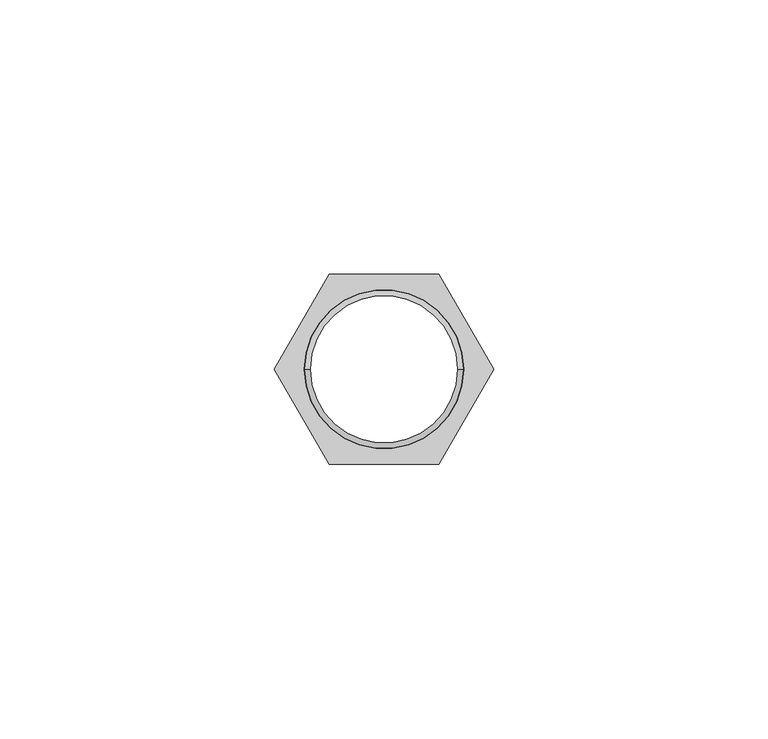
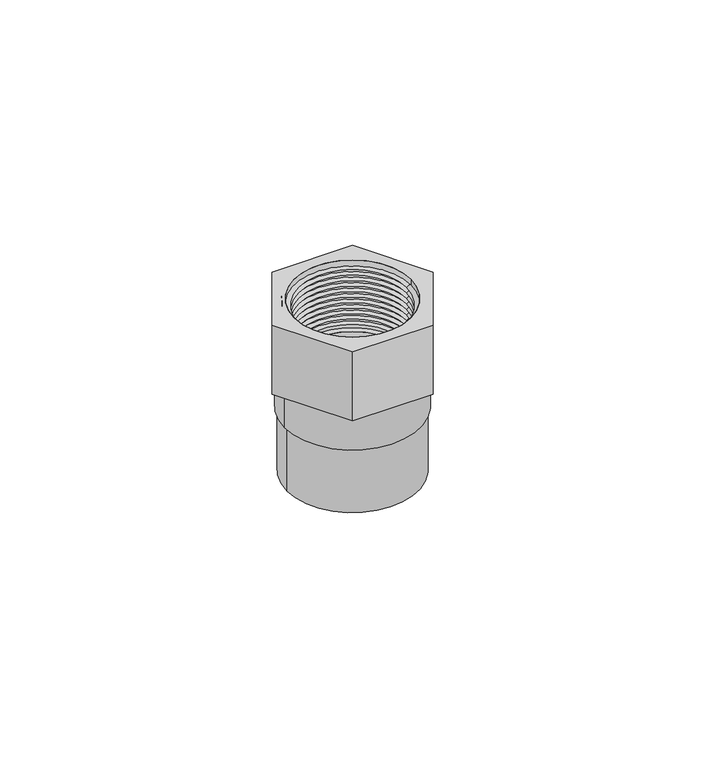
"""IFC4 building model written with IfcOpenShell, lengths in millimetres: valve geometry, Adaptador Hembra_Lubrizol_CPVC_FlowGuard_MX 25mm : Adaptador Hembra_Lubrizol_CPVC_FlowGuard_MX 25mm."""

from ifc_helpers import new_model, si_unit, point, frame, origin, origin_with_axes, origin_2d, place, context, project, spatial, polyline, circle_curve, trimmed, segment, composite_curve, outline, extrude, source, transform, mapped, element, save
from ifc_brep_helpers import plane_surface, cylinder_surface, revolved_surface, advanced_brep


def valve_bd7e4427(model_context):
    return source(origin(), model_context, "Body", "SolidModel", [
        extrude(outline(composite_curve([segment(trimmed(circle_curve(origin_2d(), 16.8646028), [point((-16.8646028, 0.0))], [point((16.8646028, 0.0))], False, "CARTESIAN"), True, "CONTINUOUS"), segment(trimmed(circle_curve(origin_2d(), 16.8646028), [point((16.8646028, 0.0))], [point((-16.8646028, 0.0))], False, "CARTESIAN"), True, "CONTINUOUS")], self_intersect=False), holes=[composite_curve([segment(trimmed(circle_curve(origin_2d(), 13.4417103), [point((-13.4417103, 0.0))], [point((13.4417103, 0.0))], True, "CARTESIAN"), True, "CONTINUOUS"), segment(trimmed(circle_curve(origin_2d(), 13.4417103), [point((13.4417103, 0.0))], [point((-13.4417103, 0.0))], True, "CARTESIAN"), True, "CONTINUOUS")], self_intersect=False)]), frame((0.0, 0.0, 16.8611414), z_axis=(0.0, 0.0, 1.0), x_axis=(1.0, 0.0, 0.0)), (0.0, 0.0, 1.0), 9.9412491),
        extrude(outline(polyline([(-10.0, -17.3205081), (-20.0, 0.0), (-10.0, 17.3205081), (10.0, 17.3205081), (20.0, 0.0), (10.0, -17.3205081), (-10.0, -17.3205081)]), holes=[composite_curve([segment(trimmed(circle_curve(origin_2d(), 14.5054229), [point((-14.5054229, 0.0))], [point((14.5054229, 0.0))], True, "CARTESIAN"), True, "CONTINUOUS"), segment(trimmed(circle_curve(origin_2d(), 14.5054229), [point((14.5054229, 0.0))], [point((-14.5054229, 0.0))], True, "CARTESIAN"), True, "CONTINUOUS")], self_intersect=False)]), frame((0.0, 0.0, 26.8023905), z_axis=(0.0, 0.0, 1.0), x_axis=(1.0, 0.0, 0.0)), (0.0, 0.0, 1.0), 18.0726095),
        advanced_brep(
        [(15.3562272, 0.0, 44.875), (-15.3562272, 0.0, 44.875), (-14.5054229, 0.0, 44.875), (14.5054229, 0.0, 44.875), (15.3562272, 0.0, 28.0251223), (-15.3562272, 0.0, 28.0251223), (14.4090846, 0.0, 28.0251223), (-14.4090846, 0.0, 28.0251223), (13.4417103, 0.0, 28.7024851), (-13.4417103, 0.0, 28.7024851), (14.4759345, 0.0, 29.4266568), (-14.4759345, 0.0, 29.4266568), (13.4417103, 0.0, 30.1508284), (-13.4417103, 0.0, 30.1508284), (14.4425096, 0.0, 30.8515956), (-14.4425096, 0.0, 30.8515956), (13.4417103, 0.0, 31.5523628), (-13.4417103, 0.0, 31.5523628), (14.4759345, 0.0, 32.2765344), (-14.4759345, 0.0, 32.2765344), (13.4417103, 0.0, 33.000706), (-13.4417103, 0.0, 33.000706), (14.4759345, 0.0, 33.7248777), (-14.4759345, 0.0, 33.7248777), (13.4417103, 0.0, 34.4490493), (-13.4417103, 0.0, 34.4490493), (14.4759345, 0.0, 35.1732209), (-14.4759345, 0.0, 35.1732209), (13.4417103, 0.0, 35.8973925), (-13.4417103, 0.0, 35.8973925), (14.4759345, 0.0, 36.6215641), (-14.4759345, 0.0, 36.6215641), (13.4417103, 0.0, 37.3457358), (-13.4417103, 0.0, 37.3457358), (14.4759345, 0.0, 38.0699074), (-14.4759345, 0.0, 38.0699074), (13.4417103, 0.0, 38.794079), (-13.4417103, 0.0, 38.794079), (14.4759345, 0.0, 39.5182506), (-14.4759345, 0.0, 39.5182506), (13.4417103, 0.0, 40.2424223), (-13.4417103, 0.0, 40.2424223), (14.4759345, 0.0, 40.9665939), (-14.4759345, 0.0, 40.9665939), (13.4417103, 0.0, 41.6907655), (-13.4417103, 0.0, 41.6907655), (14.4759345, 0.0, 42.4149371), (-14.4759345, 0.0, 42.4149371), (13.4417103, 0.0, 43.1391088), (-13.4417103, 0.0, 43.1391088), (14.5054229, 0.0, 43.8839284), (-14.5054229, 0.0, 43.8839284)],
        [
            (0, 1, circle_curve(frame((0.0, 0.0, 44.875), z_axis=(0.0, 0.0, 1.0), x_axis=(-1.0, 0.0, 0.0)), 15.3562272)),
            (1, 2),
            (2, 3, circle_curve(frame((0.0, 0.0, 44.875), z_axis=(0.0, 0.0, -1.0), x_axis=(-1.0, 0.0, 0.0)), 14.5054229)),
            (3, 0),
            (1, 0, circle_curve(frame((0.0, 0.0, 44.875), z_axis=(0.0, 0.0, 1.0), x_axis=(-1.0, 0.0, 0.0)), 15.3562272)),
            (3, 2, circle_curve(frame((0.0, 0.0, 44.875), z_axis=(0.0, 0.0, -1.0), x_axis=(-1.0, 0.0, 0.0)), 14.5054229)),
            (4, 5, circle_curve(frame((0.0, 0.0, 28.0251223), z_axis=(0.0, 0.0, 1.0), x_axis=(-1.0, 0.0, 0.0)), 15.3562272)),
            (5, 1),
            (0, 4),
            (5, 4, circle_curve(frame((0.0, 0.0, 28.0251223), z_axis=(0.0, 0.0, 1.0), x_axis=(-1.0, 0.0, 0.0)), 15.3562272)),
            (6, 7, circle_curve(frame((0.0, 0.0, 28.0251223), z_axis=(0.0, 0.0, 1.0), x_axis=(-1.0, 0.0, 0.0)), 14.4090846)),
            (7, 5),
            (4, 6),
            (7, 6, circle_curve(frame((0.0, 0.0, 28.0251223), z_axis=(0.0, 0.0, 1.0), x_axis=(-1.0, 0.0, 0.0)), 14.4090846)),
            (8, 9, circle_curve(frame((0.0, 0.0, 28.7024851), z_axis=(0.0, 0.0, 1.0), x_axis=(-1.0, 0.0, 0.0)), 13.4417103)),
            (9, 7),
            (6, 8),
            (9, 8, circle_curve(frame((0.0, 0.0, 28.7024851), z_axis=(0.0, 0.0, 1.0), x_axis=(-1.0, 0.0, 0.0)), 13.4417103)),
            (10, 11, circle_curve(frame((0.0, 0.0, 29.4266568), z_axis=(0.0, 0.0, 1.0), x_axis=(-1.0, 0.0, 0.0)), 14.4759345)),
            (11, 9),
            (8, 10),
            (11, 10, circle_curve(frame((0.0, 0.0, 29.4266568), z_axis=(0.0, 0.0, 1.0), x_axis=(-1.0, 0.0, 0.0)), 14.4759345)),
            (12, 13, circle_curve(frame((0.0, 0.0, 30.1508284), z_axis=(0.0, 0.0, 1.0), x_axis=(-1.0, 0.0, 0.0)), 13.4417103)),
            (13, 11),
            (10, 12),
            (13, 12, circle_curve(frame((0.0, 0.0, 30.1508284), z_axis=(0.0, 0.0, 1.0), x_axis=(-1.0, 0.0, 0.0)), 13.4417103)),
            (14, 15, circle_curve(frame((0.0, 0.0, 30.8515956), z_axis=(0.0, 0.0, 1.0), x_axis=(-1.0, 0.0, 0.0)), 14.4425096)),
            (15, 13),
            (12, 14),
            (15, 14, circle_curve(frame((0.0, 0.0, 30.8515956), z_axis=(0.0, 0.0, 1.0), x_axis=(-1.0, 0.0, 0.0)), 14.4425096)),
            (16, 17, circle_curve(frame((0.0, 0.0, 31.5523628), z_axis=(0.0, 0.0, 1.0), x_axis=(-1.0, 0.0, 0.0)), 13.4417103)),
            (17, 15),
            (14, 16),
            (17, 16, circle_curve(frame((0.0, 0.0, 31.5523628), z_axis=(0.0, 0.0, 1.0), x_axis=(-1.0, 0.0, 0.0)), 13.4417103)),
            (18, 19, circle_curve(frame((0.0, 0.0, 32.2765344), z_axis=(0.0, 0.0, 1.0), x_axis=(-1.0, 0.0, 0.0)), 14.4759345)),
            (19, 17),
            (16, 18),
            (19, 18, circle_curve(frame((0.0, 0.0, 32.2765344), z_axis=(0.0, 0.0, 1.0), x_axis=(-1.0, 0.0, 0.0)), 14.4759345)),
            (20, 21, circle_curve(frame((0.0, 0.0, 33.000706), z_axis=(0.0, 0.0, 1.0), x_axis=(-1.0, 0.0, 0.0)), 13.4417103)),
            (21, 19),
            (18, 20),
            (21, 20, circle_curve(frame((0.0, 0.0, 33.000706), z_axis=(0.0, 0.0, 1.0), x_axis=(-1.0, 0.0, 0.0)), 13.4417103)),
            (22, 23, circle_curve(frame((0.0, 0.0, 33.7248777), z_axis=(0.0, 0.0, 1.0), x_axis=(-1.0, 0.0, 0.0)), 14.4759345)),
            (23, 21),
            (20, 22),
            (23, 22, circle_curve(frame((0.0, 0.0, 33.7248777), z_axis=(0.0, 0.0, 1.0), x_axis=(-1.0, 0.0, 0.0)), 14.4759345)),
            (24, 25, circle_curve(frame((0.0, 0.0, 34.4490493), z_axis=(0.0, 0.0, 1.0), x_axis=(-1.0, 0.0, 0.0)), 13.4417103)),
            (25, 23),
            (22, 24),
            (25, 24, circle_curve(frame((0.0, 0.0, 34.4490493), z_axis=(0.0, 0.0, 1.0), x_axis=(-1.0, 0.0, 0.0)), 13.4417103)),
            (26, 27, circle_curve(frame((0.0, 0.0, 35.1732209), z_axis=(0.0, 0.0, 1.0), x_axis=(-1.0, 0.0, 0.0)), 14.4759345)),
            (27, 25),
            (24, 26),
            (27, 26, circle_curve(frame((0.0, 0.0, 35.1732209), z_axis=(0.0, 0.0, 1.0), x_axis=(-1.0, 0.0, 0.0)), 14.4759345)),
            (28, 29, circle_curve(frame((0.0, 0.0, 35.8973925), z_axis=(0.0, 0.0, 1.0), x_axis=(-1.0, 0.0, 0.0)), 13.4417103)),
            (29, 27),
            (26, 28),
            (29, 28, circle_curve(frame((0.0, 0.0, 35.8973925), z_axis=(0.0, 0.0, 1.0), x_axis=(-1.0, 0.0, 0.0)), 13.4417103)),
            (30, 31, circle_curve(frame((0.0, 0.0, 36.6215641), z_axis=(0.0, 0.0, 1.0), x_axis=(-1.0, 0.0, 0.0)), 14.4759345)),
            (31, 29),
            (28, 30),
            (31, 30, circle_curve(frame((0.0, 0.0, 36.6215641), z_axis=(0.0, 0.0, 1.0), x_axis=(-1.0, 0.0, 0.0)), 14.4759345)),
            (32, 33, circle_curve(frame((0.0, 0.0, 37.3457358), z_axis=(0.0, 0.0, 1.0), x_axis=(-1.0, 0.0, 0.0)), 13.4417103)),
            (33, 31),
            (30, 32),
            (33, 32, circle_curve(frame((0.0, 0.0, 37.3457358), z_axis=(0.0, 0.0, 1.0), x_axis=(-1.0, 0.0, 0.0)), 13.4417103)),
            (34, 35, circle_curve(frame((0.0, 0.0, 38.0699074), z_axis=(0.0, 0.0, 1.0), x_axis=(-1.0, 0.0, 0.0)), 14.4759345)),
            (35, 33),
            (32, 34),
            (35, 34, circle_curve(frame((0.0, 0.0, 38.0699074), z_axis=(0.0, 0.0, 1.0), x_axis=(-1.0, 0.0, 0.0)), 14.4759345)),
            (36, 37, circle_curve(frame((0.0, 0.0, 38.794079), z_axis=(0.0, 0.0, 1.0), x_axis=(-1.0, 0.0, 0.0)), 13.4417103)),
            (37, 35),
            (34, 36),
            (37, 36, circle_curve(frame((0.0, 0.0, 38.794079), z_axis=(0.0, 0.0, 1.0), x_axis=(-1.0, 0.0, 0.0)), 13.4417103)),
            (38, 39, circle_curve(frame((0.0, 0.0, 39.5182506), z_axis=(0.0, 0.0, 1.0), x_axis=(-1.0, 0.0, 0.0)), 14.4759345)),
            (39, 37),
            (36, 38),
            (39, 38, circle_curve(frame((0.0, 0.0, 39.5182506), z_axis=(0.0, 0.0, 1.0), x_axis=(-1.0, 0.0, 0.0)), 14.4759345)),
            (40, 41, circle_curve(frame((0.0, 0.0, 40.2424223), z_axis=(0.0, 0.0, 1.0), x_axis=(-1.0, 0.0, 0.0)), 13.4417103)),
            (41, 39),
            (38, 40),
            (41, 40, circle_curve(frame((0.0, 0.0, 40.2424223), z_axis=(0.0, 0.0, 1.0), x_axis=(-1.0, 0.0, 0.0)), 13.4417103)),
            (42, 43, circle_curve(frame((0.0, 0.0, 40.9665939), z_axis=(0.0, 0.0, 1.0), x_axis=(-1.0, 0.0, 0.0)), 14.4759345)),
            (43, 41),
            (40, 42),
            (43, 42, circle_curve(frame((0.0, 0.0, 40.9665939), z_axis=(0.0, 0.0, 1.0), x_axis=(-1.0, 0.0, 0.0)), 14.4759345)),
            (44, 45, circle_curve(frame((0.0, 0.0, 41.6907655), z_axis=(0.0, 0.0, 1.0), x_axis=(-1.0, 0.0, 0.0)), 13.4417103)),
            (45, 43),
            (42, 44),
            (45, 44, circle_curve(frame((0.0, 0.0, 41.6907655), z_axis=(0.0, 0.0, 1.0), x_axis=(-1.0, 0.0, 0.0)), 13.4417103)),
            (46, 47, circle_curve(frame((0.0, 0.0, 42.4149371), z_axis=(0.0, 0.0, 1.0), x_axis=(-1.0, 0.0, 0.0)), 14.4759345)),
            (47, 45),
            (44, 46),
            (47, 46, circle_curve(frame((0.0, 0.0, 42.4149371), z_axis=(0.0, 0.0, 1.0), x_axis=(-1.0, 0.0, 0.0)), 14.4759345)),
            (48, 49, circle_curve(frame((0.0, 0.0, 43.1391088), z_axis=(0.0, 0.0, 1.0), x_axis=(-1.0, 0.0, 0.0)), 13.4417103)),
            (49, 47),
            (46, 48),
            (49, 48, circle_curve(frame((0.0, 0.0, 43.1391088), z_axis=(0.0, 0.0, 1.0), x_axis=(-1.0, 0.0, 0.0)), 13.4417103)),
            (50, 51, circle_curve(frame((0.0, 0.0, 43.8839284), z_axis=(0.0, 0.0, 1.0), x_axis=(-1.0, 0.0, 0.0)), 14.5054229)),
            (51, 49),
            (48, 50),
            (51, 50, circle_curve(frame((0.0, 0.0, 43.8839284), z_axis=(0.0, 0.0, 1.0), x_axis=(-1.0, 0.0, 0.0)), 14.5054229)),
            (2, 51),
            (50, 3),
        ],
        [
            plane_surface(frame((0.0, 0.0, 44.875), z_axis=(0.0, 0.0, 1.0), x_axis=(-1.0, 0.0, 0.0))),
            cylinder_surface(frame((0.0, 0.0, 39.6339883), z_axis=(0.0, 0.0, -1.0), x_axis=(-1.0, 0.0, 0.0)), 15.3562272),
            plane_surface(frame((0.0, 0.0, 28.0251223), z_axis=(0.0, 0.0, -1.0), x_axis=(-1.0, 0.0, 0.0))),
            revolved_surface(polyline([(-14.4090846, 0.0, 28.0251223), (-13.4417103, 0.0, 28.7024851)]), (0.0, 0.0, 39.6339883), (0.0, 0.0, -1.0)),
            revolved_surface(polyline([(-13.4417103, 0.0, 28.7024851), (-14.4759345, 0.0, 29.4266568)]), (0.0, 0.0, 39.6339883), (0.0, 0.0, -1.0)),
            revolved_surface(polyline([(-14.4759345, 0.0, 29.4266568), (-13.4417103, 0.0, 30.1508284)]), (0.0, 0.0, 39.6339883), (0.0, 0.0, -1.0)),
            revolved_surface(polyline([(-13.4417103, 0.0, 30.1508284), (-14.4425096, 0.0, 30.8515956)]), (0.0, 0.0, 39.6339883), (0.0, 0.0, -1.0)),
            revolved_surface(polyline([(-14.4425096, 0.0, 30.8515956), (-13.4417103, 0.0, 31.5523628)]), (0.0, 0.0, 39.6339883), (0.0, 0.0, -1.0)),
            revolved_surface(polyline([(-13.4417103, 0.0, 31.5523628), (-14.4759345, 0.0, 32.2765344)]), (0.0, 0.0, 39.6339883), (0.0, 0.0, -1.0)),
            revolved_surface(polyline([(-14.4759345, 0.0, 32.2765344), (-13.4417103, 0.0, 33.000706)]), (0.0, 0.0, 39.6339883), (0.0, 0.0, -1.0)),
            revolved_surface(polyline([(-13.4417103, 0.0, 33.000706), (-14.4759345, 0.0, 33.7248777)]), (0.0, 0.0, 39.6339883), (0.0, 0.0, -1.0)),
            revolved_surface(polyline([(-14.4759345, 0.0, 33.7248777), (-13.4417103, 0.0, 34.4490493)]), (0.0, 0.0, 39.6339883), (0.0, 0.0, -1.0)),
            revolved_surface(polyline([(-13.4417103, 0.0, 34.4490493), (-14.4759345, 0.0, 35.1732209)]), (0.0, 0.0, 39.6339883), (0.0, 0.0, -1.0)),
            revolved_surface(polyline([(-14.4759345, 0.0, 35.1732209), (-13.4417103, 0.0, 35.8973925)]), (0.0, 0.0, 39.6339883), (0.0, 0.0, -1.0)),
            revolved_surface(polyline([(-13.4417103, 0.0, 35.8973925), (-14.4759345, 0.0, 36.6215641)]), (0.0, 0.0, 39.6339883), (0.0, 0.0, -1.0)),
            revolved_surface(polyline([(-14.4759345, 0.0, 36.6215641), (-13.4417103, 0.0, 37.3457358)]), (0.0, 0.0, 39.6339883), (0.0, 0.0, -1.0)),
            revolved_surface(polyline([(-13.4417103, 0.0, 37.3457358), (-14.4759345, 0.0, 38.0699074)]), (0.0, 0.0, 39.6339883), (0.0, 0.0, -1.0)),
            revolved_surface(polyline([(-14.4759345, 0.0, 38.0699074), (-13.4417103, 0.0, 38.794079)]), (0.0, 0.0, 39.6339883), (0.0, 0.0, -1.0)),
            revolved_surface(polyline([(-13.4417103, 0.0, 38.794079), (-14.4759345, 0.0, 39.5182506)]), (0.0, 0.0, 39.6339883), (0.0, 0.0, -1.0)),
            revolved_surface(polyline([(-14.4759345, 0.0, 39.5182506), (-13.4417103, 0.0, 40.2424223)]), (0.0, 0.0, 39.6339883), (0.0, 0.0, -1.0)),
            revolved_surface(polyline([(-13.4417103, 0.0, 40.2424223), (-14.4759345, 0.0, 40.9665939)]), (0.0, 0.0, 39.6339883), (0.0, 0.0, -1.0)),
            revolved_surface(polyline([(-14.4759345, 0.0, 40.9665939), (-13.4417103, 0.0, 41.6907655)]), (0.0, 0.0, 39.6339883), (0.0, 0.0, -1.0)),
            revolved_surface(polyline([(-13.4417103, 0.0, 41.6907655), (-14.4759345, 0.0, 42.4149371)]), (0.0, 0.0, 39.6339883), (0.0, 0.0, -1.0)),
            revolved_surface(polyline([(-14.4759345, 0.0, 42.4149371), (-13.4417103, 0.0, 43.1391088)]), (0.0, 0.0, 39.6339883), (0.0, 0.0, -1.0)),
            revolved_surface(polyline([(-13.4417103, 0.0, 43.1391088), (-14.5054229, 0.0, 43.8839284)]), (0.0, 0.0, 39.6339883), (0.0, 0.0, -1.0)),
            revolved_surface(polyline([(-14.5054229, 0.0, 43.8839284), (-14.5054229, 0.0, 44.875)]), (0.0, 0.0, 39.6339883), (0.0, 0.0, -1.0)),
        ],
        [
            (0, [[1, 2, 3, 4]]),
            (0, [[5, -4, 6, -2]]),
            (1, [[7, 8, -1, 9]]),
            (1, [[10, -9, -5, -8]]),
            (2, [[11, 12, -7, 13]]),
            (2, [[14, -13, -10, -12]]),
            (3, [[15, 16, -11, 17]]),
            (3, [[18, -17, -14, -16]]),
            (4, [[19, 20, -15, 21]]),
            (4, [[22, -21, -18, -20]]),
            (5, [[23, 24, -19, 25]]),
            (5, [[26, -25, -22, -24]]),
            (6, [[27, 28, -23, 29]]),
            (6, [[30, -29, -26, -28]]),
            (7, [[31, 32, -27, 33]]),
            (7, [[34, -33, -30, -32]]),
            (8, [[35, 36, -31, 37]]),
            (8, [[38, -37, -34, -36]]),
            (9, [[39, 40, -35, 41]]),
            (9, [[42, -41, -38, -40]]),
            (10, [[43, 44, -39, 45]]),
            (10, [[46, -45, -42, -44]]),
            (11, [[47, 48, -43, 49]]),
            (11, [[50, -49, -46, -48]]),
            (12, [[51, 52, -47, 53]]),
            (12, [[54, -53, -50, -52]]),
            (13, [[55, 56, -51, 57]]),
            (13, [[58, -57, -54, -56]]),
            (14, [[59, 60, -55, 61]]),
            (14, [[62, -61, -58, -60]]),
            (15, [[63, 64, -59, 65]]),
            (15, [[66, -65, -62, -64]]),
            (16, [[67, 68, -63, 69]]),
            (16, [[70, -69, -66, -68]]),
            (17, [[71, 72, -67, 73]]),
            (17, [[74, -73, -70, -72]]),
            (18, [[75, 76, -71, 77]]),
            (18, [[78, -77, -74, -76]]),
            (19, [[79, 80, -75, 81]]),
            (19, [[82, -81, -78, -80]]),
            (20, [[83, 84, -79, 85]]),
            (20, [[86, -85, -82, -84]]),
            (21, [[87, 88, -83, 89]]),
            (21, [[90, -89, -86, -88]]),
            (22, [[91, 92, -87, 93]]),
            (22, [[94, -93, -90, -92]]),
            (23, [[95, 96, -91, 97]]),
            (23, [[98, -97, -94, -96]]),
            (24, [[99, 100, -95, 101]]),
            (24, [[102, -101, -98, -100]]),
            (25, [[-3, 103, -99, 104]]),
            (25, [[-6, -104, -102, -103]]),
        ],
    ),
        extrude(outline(composite_curve([segment(trimmed(circle_curve(origin_2d(), 16.3), [point((-16.3, 0.0))], [point((16.3, 0.0))], False, "CARTESIAN"), True, "CONTINUOUS"), segment(trimmed(circle_curve(origin_2d(), 16.3), [point((16.3, 0.0))], [point((-16.3, 0.0))], False, "CARTESIAN"), True, "CONTINUOUS")], self_intersect=False), holes=[composite_curve([segment(trimmed(circle_curve(origin_2d(), 14.3), [point((-14.3, 0.0))], [point((14.3, 0.0))], True, "CARTESIAN"), True, "CONTINUOUS"), segment(trimmed(circle_curve(origin_2d(), 14.3), [point((14.3, 0.0))], [point((-14.3, 0.0))], True, "CARTESIAN"), True, "CONTINUOUS")], self_intersect=False)]), origin_with_axes(), (0.0, 0.0, 1.0), 16.8611414),
    ])


if __name__ == "__main__":
    model = new_model("IFC4")
    model_context = context("Model", 3, world=origin())
    ifc_project = project(units=[si_unit("LENGTHUNIT", "METRE", prefix="MILLI")], contexts=[model_context])
    site = spatial("IfcSite", under=ifc_project)
    building = spatial("IfcBuilding", under=site)
    placement = place(None, origin())
    valve_shape = valve_bd7e4427(model_context)
    element("IfcValve", 1, ObjectType="Adaptador Hembra_Lubrizol_CPVC_FlowGuard_MX 25mm : Adaptador Hembra_Lubrizol_CPVC_FlowGuard_MX 25mm", at=placement, inside=building, context=model_context, shape_type="MappedRepresentation", body=[
        mapped(valve_shape, transform((0.0, 0.0, 0.0), x_axis=(1.0, 0.0, 0.0), y_axis=(0.0, 1.0, 0.0), z_axis=(0.0, 0.0, 1.0))),
    ])
    save(model, "model.ifc")
